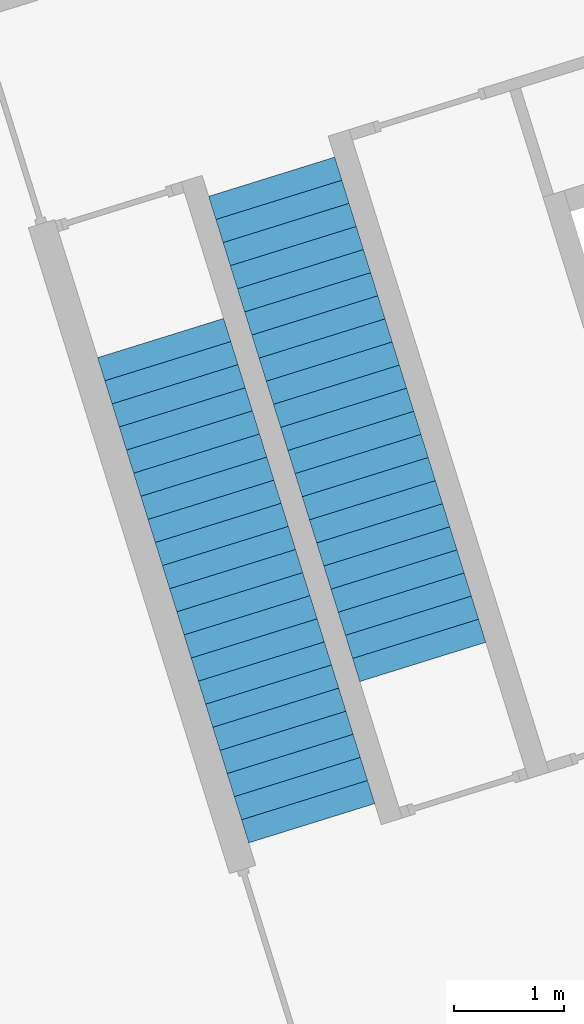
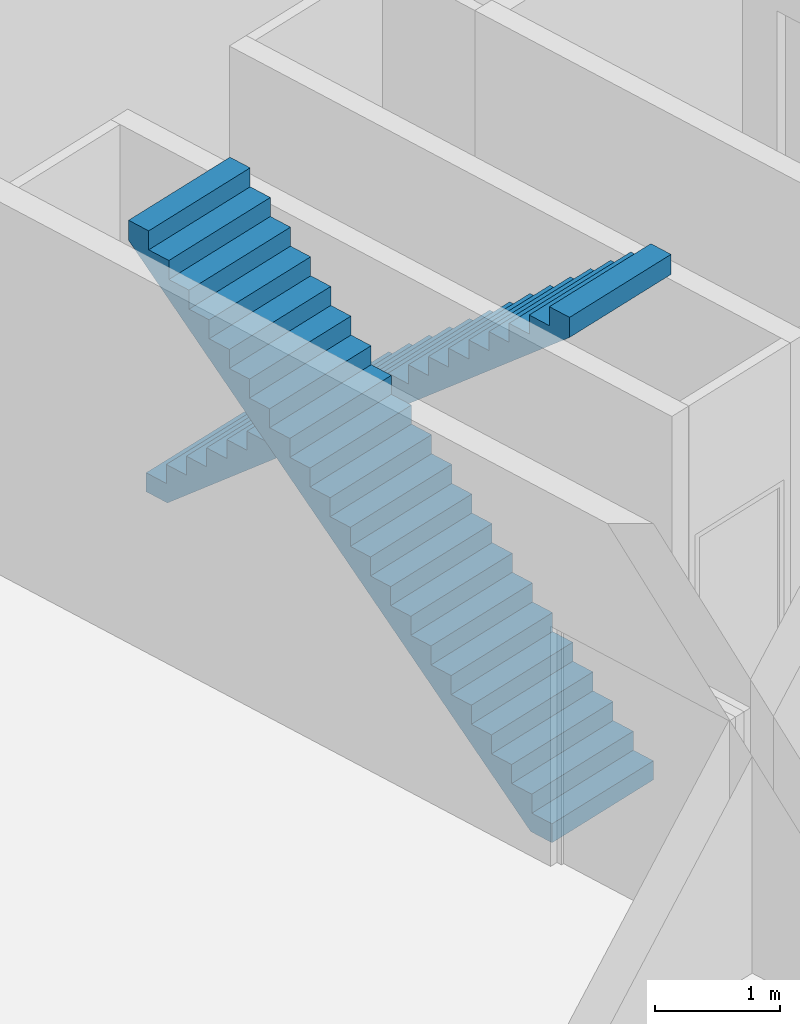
# One storey, part 10 of 10: 2 stair flights, 2 elements without a shape of their own.
"""IFC4 building model written with IfcOpenShell, lengths in metres."""

from ifc_helpers import new_model, entity, si_unit, converted_unit, direction, frame, origin, place, context, subcontext, project, spatial, polygons, material, type_object, element, aggregate, save


model = new_model("IFC4")

# Units and contexts
model_context = context("Model", 3, precision=1e-05, world=origin(), true_north=direction((6.12323399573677e-17, 1.0)))
body_context = subcontext(model_context, "Body", "Model", "MODEL_VIEW")
ifc_project = project(units=[si_unit("LENGTHUNIT", "METRE"), si_unit("AREAUNIT", "SQUARE_METRE"), converted_unit("PLANEANGLEUNIT", "DEGREE", entity("IfcPlaneAngleMeasure", 0.0174532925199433), si_unit("PLANEANGLEUNIT", "RADIAN"), dimensions=[0, 0, 0, 0, 0, 0, 0]), si_unit("VOLUMEUNIT", "CUBIC_METRE")], contexts=[model_context])

# Site, building, storey
site_placement = place(None, frame((13.1347999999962, 11.9886000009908, 0.0), z_axis=(0.0, 0.0, 1.0), x_axis=(0.954770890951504, 0.297342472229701, 0.0)))
site = spatial("IfcSite", under=ifc_project, at=site_placement, Name="Schiehaven", CompositionType="ELEMENT")
building_placement = place(site_placement, origin())
building = spatial("IfcBuilding", under=site, at=building_placement, Name="VORM huis", CompositionType="ELEMENT")
storey_placement = place(building_placement, origin())
storey = spatial("IfcBuildingStorey", under=building, at=storey_placement, Name="00 begane grond", CompositionType="ELEMENT", Elevation=0.0)

# Stair, stair flight
stair_type = type_object("IfcStairType", Name="Trap", PredefinedType="STRAIGHT_RUN_STAIR")
stair_1_placement = place(storey_placement, origin())
stair_1 = element("IfcStair", 1, at=stair_1_placement, inside=storey, type_object=stair_type, Name="Hoofdtrap", ObjectType="Precast Stair:NLRS_24_STR_reguliere trap-woonfunctie-breedte 1200mm_gen", PredefinedType="STRAIGHT_RUN_STAIR")
ifc_material = material(Name="beton_gewapend_prefab-element", Category="Miscellaneous")
stair_flight_type = type_object("IfcStairFlightType", Name="Monolithic Run:NLRS_24_STRR_trap-beton prefab-monolithisch-recht_gen_rsf", PredefinedType="STRAIGHT")
stair_flight_1_placement = place(stair_1_placement, frame((65.1250000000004, 14.19, 0.0)))
stair_flight_1 = element("IfcStairFlight", 2, at=stair_flight_1_placement, type_object=stair_flight_type, material=ifc_material, Name="Hoofdtrap Run 1", ObjectType="Monolithic Run:NLRS_24_STRR_trap-beton prefab-monolithisch-recht_gen_rsf", PredefinedType="STRAIGHT", context=body_context, shape_type="Tessellation", body=[
    polygons([(0.0, 0.219999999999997, 0.185714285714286), (0.0, -1.77635683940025e-15, 0.185714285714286), (1.2, -1.77635683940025e-15, 0.185714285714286), (1.2, 0.219999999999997, 0.185714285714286), (0.0, 0.219999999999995, 0.0), (0.0, -1.77635683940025e-15, 0.0), (1.2, -1.77635683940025e-15, 0.0), (1.2, 0.219999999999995, 0.0), (0.0, 0.439999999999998, 0.371428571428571), (0.0, 0.219999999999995, 0.371428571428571), (1.2, 0.219999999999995, 0.371428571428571), (1.2, 0.439999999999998, 0.371428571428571), (0.0, 0.439999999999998, 0.175129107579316), (0.0, 0.232539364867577, 0.0), (1.2, 0.232539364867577, 0.0), (1.2, 0.439999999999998, 0.175129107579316), (0.0, 0.659999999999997, 0.557142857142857), (0.0, 0.439999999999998, 0.557142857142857), (1.2, 0.439999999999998, 0.557142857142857), (1.2, 0.659999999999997, 0.557142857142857), (0.0, 0.659999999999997, 0.360843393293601), (1.2, 0.659999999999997, 0.360843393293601), (0.0, 0.879999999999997, 0.742857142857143), (0.0, 0.659999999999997, 0.742857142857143), (1.2, 0.659999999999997, 0.742857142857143), (1.2, 0.879999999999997, 0.742857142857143), (0.0, 0.879999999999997, 0.546557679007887), (1.2, 0.879999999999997, 0.546557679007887), (0.0, 1.1, 0.928571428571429), (0.0, 0.879999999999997, 0.928571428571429), (1.2, 0.879999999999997, 0.928571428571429), (1.2, 1.1, 0.928571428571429), (0.0, 1.09999999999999, 0.732271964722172), (1.2, 1.09999999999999, 0.732271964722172), (0.0, 1.32, 1.11428571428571), (0.0, 1.1, 1.11428571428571), (1.2, 1.1, 1.11428571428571), (1.2, 1.32, 1.11428571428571), (0.0, 1.32, 0.91798625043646), (1.2, 1.32, 0.91798625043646), (0.0, 1.54, 1.3), (0.0, 1.32, 1.3), (1.2, 1.32, 1.3), (1.2, 1.54, 1.3), (0.0, 1.54, 1.10370053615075), (1.2, 1.54, 1.10370053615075), (0.0, 1.76, 1.48571428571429), (0.0, 1.54, 1.48571428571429), (1.2, 1.54, 1.48571428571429), (1.2, 1.76, 1.48571428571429), (0.0, 1.76, 1.28941482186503), (1.2, 1.76, 1.28941482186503), (0.0, 1.98000000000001, 1.67142857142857), (0.0, 1.76, 1.67142857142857), (1.2, 1.76, 1.67142857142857), (1.2, 1.98000000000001, 1.67142857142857), (0.0, 1.98, 1.47512910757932), (1.2, 1.98, 1.47512910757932), (0.0, 2.20000000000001, 1.85714285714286), (0.0, 1.98000000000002, 1.85714285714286), (1.2, 1.98000000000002, 1.85714285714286), (1.20000000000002, 2.20000000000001, 1.85714285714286), (0.0, 2.20000000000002, 1.66084339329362), (1.20000000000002, 2.20000000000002, 1.66084339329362), (0.0, 2.42, 2.04285714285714), (0.0, 2.2, 2.04285714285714), (1.20000000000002, 2.2, 2.04285714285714), (1.20000000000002, 2.42, 2.04285714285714), (0.0, 2.42, 1.84655767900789), (1.20000000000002, 2.42, 1.84655767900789), (0.0, 2.64, 2.22857142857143), (0.0, 2.42, 2.22857142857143), (1.20000000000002, 2.42, 2.22857142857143), (1.20000000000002, 2.64, 2.22857142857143), (0.0, 2.64, 2.03227196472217), (1.20000000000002, 2.64, 2.03227196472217), (0.0, 2.86, 2.41428571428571), (0.0, 2.64, 2.41428571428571), (1.20000000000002, 2.64, 2.41428571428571), (1.20000000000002, 2.86, 2.41428571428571), (0.0, 2.86, 2.21798625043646), (1.20000000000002, 2.86, 2.21798625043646), (0.0, 3.08, 2.6), (0.0, 2.86, 2.6), (1.20000000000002, 2.86, 2.6), (1.20000000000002, 3.08, 2.6), (0.0, 3.08, 2.40370053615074), (1.20000000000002, 3.08, 2.40370053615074), (0.0, 3.3, 2.78571428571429), (0.0, 3.08, 2.78571428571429), (1.20000000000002, 3.08, 2.78571428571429), (1.20000000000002, 3.3, 2.78571428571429), (0.0, 3.3, 2.58941482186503), (1.20000000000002, 3.3, 2.58941482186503), (0.0, 3.52, 2.97142857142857), (0.0, 3.3, 2.97142857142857), (1.20000000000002, 3.3, 2.97142857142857), (1.20000000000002, 3.52, 2.97142857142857), (0.0, 3.52, 2.77512910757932), (1.20000000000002, 3.52, 2.77512910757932), (0.0, 3.74, 3.15714285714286), (0.0, 3.52, 3.15714285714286), (1.20000000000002, 3.52, 3.15714285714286), (1.20000000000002, 3.74, 3.15714285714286), (0.0, 3.74, 2.9608433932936), (1.20000000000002, 3.74, 2.9608433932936), (0.0, 3.96, 3.34285714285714), (0.0, 3.74, 3.34285714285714), (1.20000000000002, 3.74, 3.34285714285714), (1.20000000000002, 3.96, 3.34285714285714), (0.0, 3.96, 3.14655767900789), (1.20000000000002, 3.96, 3.14655767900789), (0.0, 4.18, 3.52857142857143), (0.0, 3.96, 3.52857142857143), (1.20000000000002, 3.96, 3.52857142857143), (1.20000000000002, 4.18, 3.52857142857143), (0.0, 4.18, 3.33227196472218), (1.20000000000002, 4.18, 3.33227196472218), (0.0, 4.4, 3.71428571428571), (0.0, 4.18, 3.71428571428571), (1.20000000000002, 4.18, 3.71428571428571), (1.20000000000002, 4.4, 3.71428571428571), (0.0, 4.4, 3.51798625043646), (1.20000000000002, 4.4, 3.51798625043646), (0.0, 4.62, 3.9), (0.0, 4.4, 3.9), (1.20000000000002, 4.4, 3.9), (1.20000000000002, 4.62, 3.9), (0.0, 4.62, 3.70370053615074), (1.20000000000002, 4.62, 3.70370053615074)], [[[1, 2, 3, 4]], [[2, 1, 5, 6]], [[3, 2, 6, 7]], [[4, 3, 7, 8]], [[9, 10, 11, 12]], [[5, 1, 10, 9, 13, 14]], [[1, 4, 11, 10]], [[4, 8, 15, 16, 12, 11]], [[17, 18, 19, 20]], [[18, 17, 21, 13, 9]], [[9, 12, 19, 18]], [[20, 19, 12, 16, 22]], [[23, 24, 25, 26]], [[24, 23, 27, 21, 17]], [[17, 20, 25, 24]], [[26, 25, 20, 22, 28]], [[29, 30, 31, 32]], [[30, 29, 33, 27, 23]], [[23, 26, 31, 30]], [[32, 31, 26, 28, 34]], [[35, 36, 37, 38]], [[36, 35, 39, 33, 29]], [[29, 32, 37, 36]], [[38, 37, 32, 34, 40]], [[41, 42, 43, 44]], [[42, 41, 45, 39, 35]], [[35, 38, 43, 42]], [[44, 43, 38, 40, 46]], [[47, 48, 49, 50]], [[48, 47, 51, 45, 41]], [[41, 44, 49, 48]], [[50, 49, 44, 46, 52]], [[53, 54, 55, 56]], [[54, 53, 57, 51, 47]], [[47, 50, 55, 54]], [[56, 55, 50, 52, 58]], [[59, 60, 61, 62]], [[60, 59, 63, 57, 53]], [[53, 56, 61, 60]], [[62, 61, 56, 58, 64]], [[65, 66, 67, 68]], [[66, 65, 69, 63, 59]], [[59, 62, 67, 66]], [[68, 67, 62, 64, 70]], [[71, 72, 73, 74]], [[72, 71, 75, 69, 65]], [[65, 68, 73, 72]], [[74, 73, 68, 70, 76]], [[77, 78, 79, 80]], [[78, 77, 81, 75, 71]], [[71, 74, 79, 78]], [[80, 79, 74, 76, 82]], [[83, 84, 85, 86]], [[84, 83, 87, 81, 77]], [[77, 80, 85, 84]], [[86, 85, 80, 82, 88]], [[89, 90, 91, 92]], [[90, 89, 93, 87, 83]], [[83, 86, 91, 90]], [[92, 91, 86, 88, 94]], [[95, 96, 97, 98]], [[96, 95, 99, 93, 89]], [[89, 92, 97, 96]], [[98, 97, 92, 94, 100]], [[101, 102, 103, 104]], [[102, 101, 105, 99, 95]], [[95, 98, 103, 102]], [[104, 103, 98, 100, 106]], [[107, 108, 109, 110]], [[108, 107, 111, 105, 101]], [[101, 104, 109, 108]], [[110, 109, 104, 106, 112]], [[113, 114, 115, 116]], [[114, 113, 117, 111, 107]], [[107, 110, 115, 114]], [[116, 115, 110, 112, 118]], [[119, 120, 121, 122]], [[120, 119, 123, 117, 113]], [[113, 116, 121, 120]], [[122, 121, 116, 118, 124]], [[125, 126, 127, 128]], [[126, 125, 129, 123, 119]], [[119, 122, 127, 126]], [[128, 127, 122, 124, 130]], [[125, 128, 130, 129]], [[6, 5, 14, 15, 8, 7]], [[15, 14, 13, 21, 27, 33, 39, 45, 51, 57, 63, 69, 75, 81, 87, 93, 99, 105, 111, 117, 123, 129, 130, 124, 118, 112, 106, 100, 94, 88, 82, 76, 70, 64, 58, 52, 46, 40, 34, 28, 22, 16]]], closed=True),
])
aggregate(stair_1, [stair_flight_1])

stair_2_placement = place(storey_placement, origin())
stair_2 = element("IfcStair", 3, at=stair_2_placement, inside=storey, type_object=stair_type, Name="Hoofdtrap", ObjectType="Precast Stair:NLRS_24_STR_reguliere trap-woonfunctie-breedte 1200mm_gen", PredefinedType="STRAIGHT_RUN_STAIR")
stair_flight_2_placement = place(stair_2_placement, frame((66.5250000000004, 15.29, 0.0)))
stair_flight_2 = element("IfcStairFlight", 4, at=stair_flight_2_placement, type_object=stair_flight_type, material=ifc_material, Name="Hoofdtrap Run 1", ObjectType="Monolithic Run:NLRS_24_STRR_trap-beton prefab-monolithisch-recht_gen_rsf", PredefinedType="STRAIGHT", context=body_context, shape_type="Tessellation", body=[
    polygons([(1.2, 4.4, 0.185714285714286), (1.2, 4.62, 0.185714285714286), (0.0, 4.62, 0.185714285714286), (0.0, 4.4, 0.185714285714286), (1.2, 4.4, 0.0), (1.2, 4.62, 0.0), (0.0, 4.62, 0.0), (0.0, 4.4, 0.0), (1.2, 4.18, 0.371428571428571), (1.2, 4.4, 0.371428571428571), (0.0, 4.4, 0.371428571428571), (0.0, 4.18, 0.371428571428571), (1.2, 4.18, 0.175129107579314), (1.2, 4.38746063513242, 0.0), (0.0, 4.38746063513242, 0.0), (0.0, 4.18, 0.175129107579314), (1.2, 3.96, 0.557142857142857), (1.2, 4.18, 0.557142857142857), (0.0, 4.18, 0.557142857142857), (0.0, 3.96, 0.557142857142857), (1.2, 3.96, 0.360843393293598), (0.0, 3.96, 0.360843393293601), (1.2, 3.74, 0.742857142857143), (1.2, 3.96, 0.742857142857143), (0.0, 3.96, 0.742857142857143), (0.0, 3.74, 0.742857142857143), (1.2, 3.74, 0.546557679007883), (0.0, 3.74, 0.546557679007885), (1.2, 3.52, 0.928571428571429), (1.2, 3.74, 0.928571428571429), (0.0, 3.74, 0.928571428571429), (0.0, 3.52, 0.928571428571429), (1.2, 3.52, 0.732271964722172), (0.0, 3.52, 0.732271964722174), (1.2, 3.3, 1.11428571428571), (1.2, 3.52, 1.11428571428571), (0.0, 3.52, 1.11428571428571), (0.0, 3.3, 1.11428571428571), (1.2, 3.3, 0.917986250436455), (0.0, 3.3, 0.917986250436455), (1.2, 3.08, 1.3), (1.2, 3.3, 1.3), (0.0, 3.3, 1.3), (0.0, 3.08, 1.3), (1.2, 3.08, 1.10370053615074), (0.0, 3.08, 1.10370053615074), (1.2, 2.86, 1.48571428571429), (1.2, 3.08, 1.48571428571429), (0.0, 3.08, 1.48571428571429), (0.0, 2.86, 1.48571428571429), (1.2, 2.86, 1.28941482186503), (0.0, 2.86, 1.28941482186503), (1.2, 2.64, 1.67142857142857), (1.2, 2.86, 1.67142857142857), (0.0, 2.86, 1.67142857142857), (0.0, 2.64, 1.67142857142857), (1.2, 2.64, 1.47512910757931), (0.0, 2.64, 1.47512910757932), (1.2, 2.41999999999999, 1.85714285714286), (1.2, 2.64, 1.85714285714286), (0.0, 2.64, 1.85714285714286), (0.0, 2.41999999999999, 1.85714285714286), (1.2, 2.42, 1.6608433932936), (0.0, 2.42, 1.6608433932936), (1.2, 2.19999999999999, 2.04285714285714), (1.2, 2.41999999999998, 2.04285714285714), (-1.4210854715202e-14, 2.41999999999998, 2.04285714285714), (-1.4210854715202e-14, 2.19999999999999, 2.04285714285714), (1.2, 2.19999999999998, 1.84655767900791), (-1.4210854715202e-14, 2.19999999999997, 1.84655767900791), (1.2, 1.98, 2.22857142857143), (1.2, 2.2, 2.22857142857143), (-1.4210854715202e-14, 2.2, 2.22857142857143), (-1.4210854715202e-14, 1.98, 2.22857142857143), (1.2, 1.98, 2.03227196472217), (-1.4210854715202e-14, 1.98, 2.03227196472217), (1.2, 1.76, 2.41428571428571), (1.2, 1.98, 2.41428571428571), (-1.4210854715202e-14, 1.98, 2.41428571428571), (-1.4210854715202e-14, 1.76, 2.41428571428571), (1.2, 1.76, 2.21798625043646), (-1.4210854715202e-14, 1.76, 2.21798625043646), (1.2, 1.54, 2.6), (1.2, 1.76, 2.6), (-1.4210854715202e-14, 1.76, 2.6), (-1.4210854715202e-14, 1.54, 2.6), (1.2, 1.54, 2.40370053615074), (-1.4210854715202e-14, 1.54, 2.40370053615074), (1.2, 1.32, 2.78571428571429), (1.2, 1.54, 2.78571428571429), (-1.4210854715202e-14, 1.54, 2.78571428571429), (-1.4210854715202e-14, 1.32, 2.78571428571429), (1.2, 1.32, 2.58941482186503), (-1.4210854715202e-14, 1.31999999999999, 2.58941482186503), (1.2, 1.1, 2.97142857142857), (1.2, 1.31999999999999, 2.97142857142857), (-1.4210854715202e-14, 1.31999999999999, 2.97142857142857), (-1.4210854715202e-14, 1.1, 2.97142857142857), (1.2, 1.1, 2.77512910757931), (-1.4210854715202e-14, 1.1, 2.77512910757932), (1.2, 0.880000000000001, 3.15714285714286), (1.2, 1.1, 3.15714285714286), (-1.4210854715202e-14, 1.1, 3.15714285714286), (-1.4210854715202e-14, 0.880000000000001, 3.15714285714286), (1.2, 0.880000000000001, 2.9608433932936), (-1.4210854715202e-14, 0.880000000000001, 2.9608433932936), (1.2, 0.659999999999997, 3.34285714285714), (1.2, 0.880000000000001, 3.34285714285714), (-1.4210854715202e-14, 0.880000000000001, 3.34285714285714), (-1.4210854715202e-14, 0.659999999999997, 3.34285714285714), (1.2, 0.660000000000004, 3.14655767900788), (-1.4210854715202e-14, 0.659999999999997, 3.14655767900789), (1.2, 0.44, 3.52857142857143), (1.2, 0.659999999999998, 3.52857142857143), (-1.4210854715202e-14, 0.659999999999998, 3.52857142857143), (-1.4210854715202e-14, 0.44, 3.52857142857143), (1.2, 0.440000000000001, 3.33227196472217), (-1.4210854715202e-14, 0.439999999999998, 3.33227196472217), (1.2, 0.219999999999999, 3.71428571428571), (1.2, 0.440000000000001, 3.71428571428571), (-1.4210854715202e-14, 0.440000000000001, 3.71428571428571), (-1.4210854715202e-14, 0.219999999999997, 3.71428571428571), (1.2, 0.220000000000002, 3.51798625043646), (-1.4210854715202e-14, 0.219999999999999, 3.51798625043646), (1.2, -1.77635683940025e-15, 3.9), (1.2, 0.219999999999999, 3.9), (-1.4210854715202e-14, 0.219999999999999, 3.9), (-1.4210854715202e-14, -1.77635683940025e-15, 3.9), (1.2, 0.0, 3.70370053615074), (-1.4210854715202e-14, 0.0, 3.70370053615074)], [[[1, 2, 3, 4]], [[2, 1, 5, 6]], [[3, 2, 6, 7]], [[4, 3, 7, 8]], [[9, 10, 11, 12]], [[5, 1, 10, 9, 13, 14]], [[1, 4, 11, 10]], [[4, 8, 15, 16, 12, 11]], [[17, 18, 19, 20]], [[18, 17, 21, 13, 9]], [[9, 12, 19, 18]], [[20, 19, 12, 16, 22]], [[23, 24, 25, 26]], [[24, 23, 27, 21, 17]], [[17, 20, 25, 24]], [[26, 25, 20, 22, 28]], [[29, 30, 31, 32]], [[30, 29, 33, 27, 23]], [[23, 26, 31, 30]], [[32, 31, 26, 28, 34]], [[35, 36, 37, 38]], [[36, 35, 39, 33, 29]], [[29, 32, 37, 36]], [[38, 37, 32, 34, 40]], [[41, 42, 43, 44]], [[42, 41, 45, 39, 35]], [[35, 38, 43, 42]], [[44, 43, 38, 40, 46]], [[47, 48, 49, 50]], [[48, 47, 51, 45, 41]], [[41, 44, 49, 48]], [[50, 49, 44, 46, 52]], [[53, 54, 55, 56]], [[54, 53, 57, 51, 47]], [[47, 50, 55, 54]], [[56, 55, 50, 52, 58]], [[59, 60, 61, 62]], [[60, 59, 63, 57, 53]], [[53, 56, 61, 60]], [[62, 61, 56, 58, 64]], [[65, 66, 67, 68]], [[66, 65, 69, 63, 59]], [[59, 62, 67, 66]], [[68, 67, 62, 64, 70]], [[71, 72, 73, 74]], [[72, 71, 75, 69, 65]], [[65, 68, 73, 72]], [[74, 73, 68, 70, 76]], [[77, 78, 79, 80]], [[78, 77, 81, 75, 71]], [[71, 74, 79, 78]], [[80, 79, 74, 76, 82]], [[83, 84, 85, 86]], [[84, 83, 87, 81, 77]], [[77, 80, 85, 84]], [[86, 85, 80, 82, 88]], [[89, 90, 91, 92]], [[90, 89, 93, 87, 83]], [[83, 86, 91, 90]], [[92, 91, 86, 88, 94]], [[95, 96, 97, 98]], [[96, 95, 99, 93, 89]], [[89, 92, 97, 96]], [[98, 97, 92, 94, 100]], [[101, 102, 103, 104]], [[102, 101, 105, 99, 95]], [[95, 98, 103, 102]], [[104, 103, 98, 100, 106]], [[107, 108, 109, 110]], [[108, 107, 111, 105, 101]], [[101, 104, 109, 108]], [[110, 109, 104, 106, 112]], [[113, 114, 115, 116]], [[114, 113, 117, 111, 107]], [[107, 110, 115, 114]], [[116, 115, 110, 112, 118]], [[119, 120, 121, 122]], [[120, 119, 123, 117, 113]], [[113, 116, 121, 120]], [[122, 121, 116, 118, 124]], [[125, 126, 127, 128]], [[126, 125, 129, 123, 119]], [[119, 122, 127, 126]], [[128, 127, 122, 124, 130]], [[125, 128, 130, 129]], [[6, 5, 14, 15, 8, 7]], [[15, 14, 13, 21, 27, 33, 39, 45, 51, 57, 63, 69, 75, 81, 87, 93, 99, 105, 111, 117, 123, 129, 130, 124, 118, 112, 106, 100, 94, 88, 82, 76, 70, 64, 58, 52, 46, 40, 34, 28, 22, 16]]], closed=True),
])
aggregate(stair_2, [stair_flight_2])

save(model, "model.ifc")
